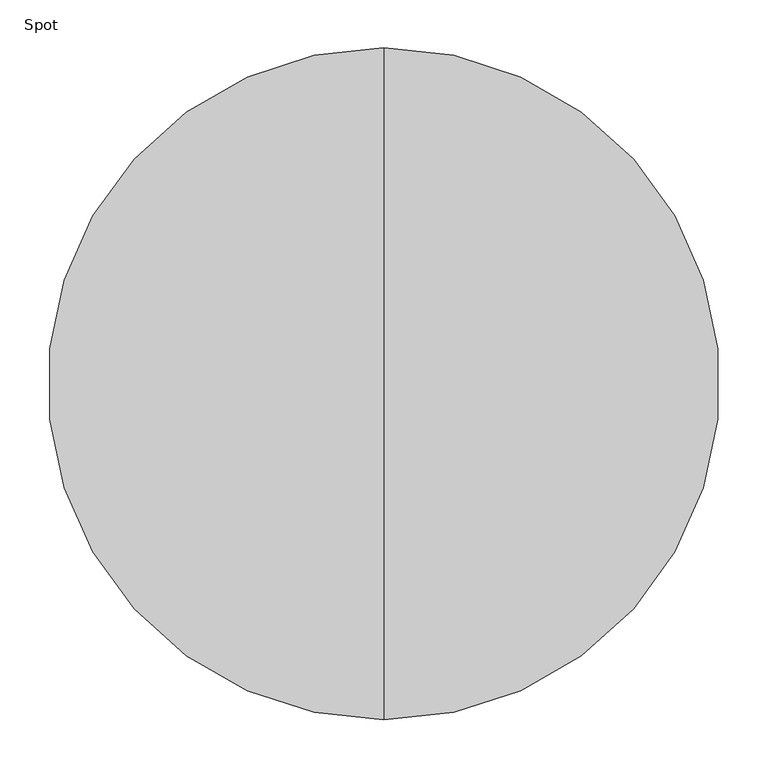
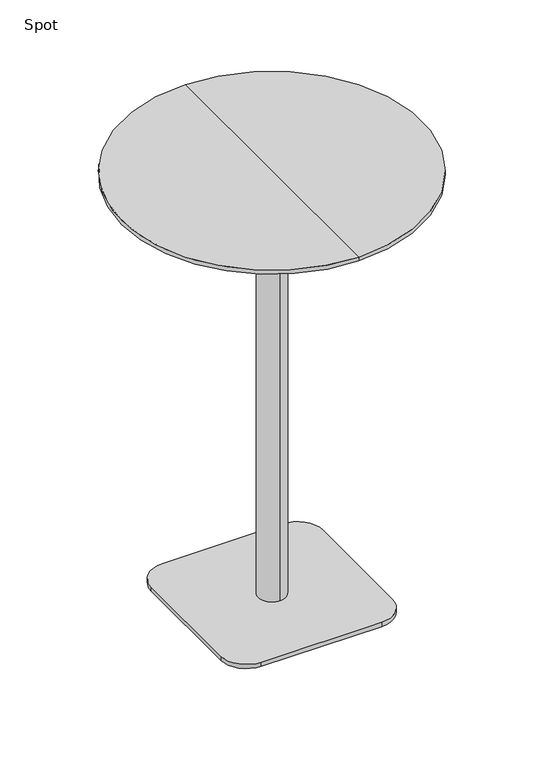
"""IFC4 building model written with IfcOpenShell, lengths in millimetres: furniture geometry, Spot : ø70x105s."""

import ifcopenshell
import ifcopenshell.guid

model = None  # the IFC model being written
_history = None  # IfcOwnerHistory: only IFC2X3 demands one
_inside = {}  # id of a spatial element -> (the spatial element, [elements in it])
_under = {}  # id of a project, library or spatial element -> (it, [spatial elements below it])
_declared = {}  # id of a project -> (the project, [libraries it declares])
_typed = {}  # id of a type object -> (the type object, [elements of that type])
_made_of = {}  # id of a material, layer set ... -> (it, [elements and type objects made of it])


def new_model(schema):
    """Start an empty IFC model of exactly this schema.

    Asked for "IFC4X3", IfcOpenShell would pick the latest addendum, in which some entities
    have other attributes; the version numbers below select the first issue.
    IFC2X3 requires an IfcOwnerHistory on every rooted entity: one is made here for all.
    """
    global model, _history
    if schema == "IFC4X3":
        model = ifcopenshell.file(schema_version=(4, 3, 0, 0))
    else:
        model = ifcopenshell.file(schema=schema)
    _inside.clear()
    _under.clear()
    _declared.clear()
    _typed.clear()
    _made_of.clear()
    _history = None
    if model.schema == "IFC2X3":
        org = make("IfcOrganization", Name="unknown")
        user = make(
            "IfcPersonAndOrganization",
            ThePerson=make("IfcPerson", FamilyName="unknown"),
            TheOrganization=org,
        )
        app = make(
            "IfcApplication",
            ApplicationDeveloper=org,
            Version="unknown",
            ApplicationFullName="unknown",
            ApplicationIdentifier="unknown",
        )
        _history = make(
            "IfcOwnerHistory",
            OwningUser=user,
            OwningApplication=app,
            ChangeAction="ADDED",
            CreationDate=0,
        )
    return model


def make(cls, **values):
    """One entity of the class cls with the attributes given. An attribute that is None is left unset."""
    return model.create_entity(
        cls, **{name: value for name, value in values.items() if value is not None}
    )


def rooted(cls, **values):
    """An entity with a GlobalId (a new one), such as an element, a storey or a relation."""
    return make(cls, GlobalId=ifcopenshell.guid.new(), OwnerHistory=_history, **values)


def si_unit(unit_type, name, prefix=None):
    """IfcSIUnit, for example si_unit("LENGTHUNIT", "METRE", prefix="MILLI")."""
    return make("IfcSIUnit", UnitType=unit_type, Prefix=prefix, Name=name)


def assignment(units):
    """IfcUnitAssignment: the units of a project."""
    return None if units is None else make("IfcUnitAssignment", Units=units)


def point(xyz):
    """IfcCartesianPoint."""
    return None if xyz is None else make("IfcCartesianPoint", Coordinates=xyz)


def direction(xyz):
    """IfcDirection."""
    return None if xyz is None else make("IfcDirection", DirectionRatios=xyz)


def frame(location, z_axis=None, x_axis=None):
    """IfcAxis2Placement3D, a coordinate frame: its origin and axes. An axis left out is left unset."""
    return make(
        "IfcAxis2Placement3D",
        Location=point(location),
        Axis=direction(z_axis),
        RefDirection=direction(x_axis),
    )


def frame_2d(location, x_axis=None):
    """IfcAxis2Placement2D, a coordinate frame in the plane: its origin and x axis."""
    return make(
        "IfcAxis2Placement2D", Location=point(location), RefDirection=direction(x_axis)
    )


def origin():
    """The frame at (0, 0, 0) with its axes left unset."""
    return frame((0.0, 0.0, 0.0))


def origin_with_axes():
    """The frame at (0, 0, 0) with the z axis (0, 0, 1) and the x axis (1, 0, 0) written out."""
    return frame((0.0, 0.0, 0.0), z_axis=(0.0, 0.0, 1.0), x_axis=(1.0, 0.0, 0.0))


def place(relative_to, where):
    """IfcLocalPlacement: puts the frame where relative to a parent placement (None: the world)."""
    return make(
        "IfcLocalPlacement", PlacementRelTo=relative_to, RelativePlacement=where
    )


def context(
    kind, dimensions, precision=None, world=None, true_north=None, identifier=None
):
    """IfcGeometricRepresentationContext, for example the 3D "Model" context."""
    return make(
        "IfcGeometricRepresentationContext",
        ContextIdentifier=identifier,
        ContextType=kind,
        CoordinateSpaceDimension=dimensions,
        Precision=precision,
        WorldCoordinateSystem=world,
        TrueNorth=true_north,
    )


def project(units=None, contexts=None):
    """IfcProject with its units and contexts."""
    return rooted(
        "IfcProject",
        Name="project",
        RepresentationContexts=contexts,
        UnitsInContext=assignment(units),
    )


def spatial(cls, under=None, at=None, **own):
    """A site, building, storey or space (cls), placed at a placement, below another one or the project."""
    s = rooted(cls, ObjectPlacement=at, **own)
    if under is not None:
        _under.setdefault(under.id(), (under, []))[1].append(s)
    return s


def polyline(points):
    """IfcPolyline through the points."""
    return make("IfcPolyline", Points=[point(p) for p in points])


def circle_curve(where, radius):
    """IfcCircle in the frame where."""
    return make("IfcCircle", Position=where, Radius=radius)


def trimmed(basis, trim1, trim2, sense, master):
    """IfcTrimmedCurve: the piece of a basis curve between two trims."""
    return make(
        "IfcTrimmedCurve",
        BasisCurve=basis,
        Trim1=trim1,
        Trim2=trim2,
        SenseAgreement=sense,
        MasterRepresentation=master,
    )


def segment(curve, same_sense, transition):
    """IfcCompositeCurveSegment."""
    return make(
        "IfcCompositeCurveSegment",
        Transition=transition,
        SameSense=same_sense,
        ParentCurve=curve,
    )


def composite_curve(segments, self_intersect=None):
    """IfcCompositeCurve: segments joined end to end."""
    return make("IfcCompositeCurve", Segments=segments, SelfIntersect=self_intersect)


def outline(outer, holes=None, kind="AREA"):
    """IfcArbitraryClosedProfileDef: a profile drawn as a closed curve; with holes, ...WithVoids."""
    if holes is None:
        return make("IfcArbitraryClosedProfileDef", ProfileType=kind, OuterCurve=outer)
    return make(
        "IfcArbitraryProfileDefWithVoids",
        ProfileType=kind,
        OuterCurve=outer,
        InnerCurves=holes,
    )


def extrude(swept, where, along, depth):
    """IfcExtrudedAreaSolid: the profile swept, set in the frame where, extruded along a direction by depth."""
    return make(
        "IfcExtrudedAreaSolid",
        SweptArea=swept,
        Position=where,
        ExtrudedDirection=direction(along),
        Depth=depth,
    )


def shape(context_of_items, identifier, shape_type, items):
    """IfcShapeRepresentation: the items that make up one representation, for example the "Body"."""
    return make(
        "IfcShapeRepresentation",
        ContextOfItems=context_of_items,
        RepresentationIdentifier=identifier,
        RepresentationType=shape_type,
        Items=items,
    )


def source(mapping_origin, context_of_items, identifier, shape_type, items):
    """IfcRepresentationMap: a shape defined once, which mapped items show again and again."""
    return make(
        "IfcRepresentationMap",
        MappingOrigin=mapping_origin,
        MappedRepresentation=shape(context_of_items, identifier, shape_type, items),
    )


def transform(
    local_origin,
    x_axis=None,
    y_axis=None,
    z_axis=None,
    scale=None,
    scale2=None,
    scale3=None,
    uniform=True,
):
    """IfcCartesianTransformationOperator3D, or its non-uniform kind. x_axis, y_axis, z_axis: its Axis1, 2, 3."""
    if uniform:
        return make(
            "IfcCartesianTransformationOperator3D",
            Axis1=direction(x_axis),
            Axis2=direction(y_axis),
            LocalOrigin=point(local_origin),
            Scale=scale,
            Axis3=direction(z_axis),
        )
    return make(
        "IfcCartesianTransformationOperator3DnonUniform",
        Axis1=direction(x_axis),
        Axis2=direction(y_axis),
        LocalOrigin=point(local_origin),
        Scale=scale,
        Axis3=direction(z_axis),
        Scale2=scale2,
        Scale3=scale3,
    )


def mapped(mapping_source, mapping_target):
    """IfcMappedItem: shows the shape of a source again, moved by a transform."""
    return make(
        "IfcMappedItem", MappingSource=mapping_source, MappingTarget=mapping_target
    )


def made_of(thing, what):
    """Note that an element or type object is made of a material, layer set ...; save() writes the relation."""
    if what is not None:
        _made_of.setdefault(what.id(), (what, []))[1].append(thing)
    return thing


def element(
    cls,
    number,
    at=None,
    inside=None,
    cuts=None,
    type_object=None,
    material=None,
    context=None,
    identifier="Body",
    shape_type=None,
    held_by="IfcProductDefinitionShape",
    body=None,
    shapes=None,
    **own,
):
    """One element of the class cls, such as IfcWall. Its Tag is "e" and its number.

    at: its placement. inside: the storey or other place that contains it. cuts: it is an
    opening in that element (IfcRelVoidsElement). A single representation is given by context,
    identifier, shape_type and body (its items); several are given by shapes. held_by: the class
    of the entity that holds the representations. save() writes the other relations.
    """
    e = rooted(cls, Tag="e%d" % number, ObjectPlacement=at, **own)
    if body is not None:
        shapes = [shape(context, identifier, shape_type, body)]
    if shapes is not None:
        e.Representation = make(held_by, Representations=shapes)
    if inside is not None:
        _inside.setdefault(inside.id(), (inside, []))[1].append(e)
    if cuts is not None:
        rooted(
            "IfcRelVoidsElement", RelatingBuildingElement=cuts, RelatedOpeningElement=e
        )
    if type_object is not None:
        _typed.setdefault(type_object.id(), (type_object, []))[1].append(e)
    return made_of(e, material)


def aggregate(whole, parts):
    """IfcRelAggregates: a whole, such as a stair, and the parts it consists of."""
    return rooted("IfcRelAggregates", RelatingObject=whole, RelatedObjects=parts)


def save(model, path):
    """Write the relations noted so far, then the file.

    IfcRelAggregates (storeys below a building ...), IfcRelContainedInSpatialStructure (elements
    in a storey), IfcRelDefinesByType, IfcRelAssociatesMaterial and IfcRelDeclares: one each for
    every whole, place, type object, material and project.
    """
    for whole, parts in _under.values():
        aggregate(whole, parts)
    for where, things in _inside.values():
        rooted(
            "IfcRelContainedInSpatialStructure",
            RelatedElements=things,
            RelatingStructure=where,
        )
    for kind, things in _typed.values():
        rooted("IfcRelDefinesByType", RelatedObjects=things, RelatingType=kind)
    for what, things in _made_of.values():
        rooted("IfcRelAssociatesMaterial", RelatedObjects=things, RelatingMaterial=what)
    for by, libraries in _declared.values():
        rooted("IfcRelDeclares", RelatingContext=by, RelatedDefinitions=libraries)
    model.write(path)


def plane_surface(at):
    """IfcPlane: the flat surface through the origin of the frame at, square to its z axis."""
    return make("IfcPlane", Position=at)


def cylinder_surface(at, radius):
    """IfcCylindricalSurface: all points at the distance radius from the z axis of the frame at."""
    return make("IfcCylindricalSurface", Position=at, Radius=radius)


def revolved_surface(curve, axis_point, axis_direction):
    """IfcSurfaceOfRevolution: the curve turned about the line through axis_point along axis_direction."""
    return make(
        "IfcSurfaceOfRevolution",
        SweptCurve=make("IfcArbitraryOpenProfileDef", ProfileType="CURVE", Curve=curve),
        AxisPosition=make("IfcAxis1Placement", Location=point(axis_point), Axis=direction(axis_direction)),
    )


def advanced_brep(points, edges, surfaces, faces):
    """IfcAdvancedBrep: a solid bounded by faces that lie on surfaces and meet in shared edges.

    An edge is (start, end): straight between two places in points (the first is 0);
    or (start, end, curve); or (start, end, curve, False) where it runs against its curve.
    A face is (place in surfaces, loops), or (place, loops, False) where it looks against
    its surface's normal. A loop lists edges by number (the first is 1), with a minus sign
    where the edge is run from its end to its start. The first loop is the outer one.
    """
    corners = [point(p) for p in points]
    vertices = [make("IfcVertexPoint", VertexGeometry=c) for c in corners]
    made = []
    for start, end, *more in edges:
        made.append(
            make(
                "IfcEdgeCurve",
                EdgeStart=vertices[start],
                EdgeEnd=vertices[end],
                EdgeGeometry=more[0] if more else make("IfcPolyline", Points=[corners[start], corners[end]]),
                SameSense=more[1] if len(more) > 1 else True,
            )
        )
    hull = []
    for where, loops, *sense in faces:
        bounds = []
        for j, loop in enumerate(loops):
            ring = [make("IfcOrientedEdge", EdgeElement=made[abs(k) - 1], Orientation=k > 0) for k in loop]
            bounds.append(
                make(
                    "IfcFaceOuterBound" if j == 0 else "IfcFaceBound",
                    Bound=make("IfcEdgeLoop", EdgeList=ring),
                    Orientation=True,
                )
            )
        hull.append(make("IfcAdvancedFace", Bounds=bounds, FaceSurface=surfaces[where], SameSense=sense[0] if sense else True))
    return make("IfcAdvancedBrep", Outer=make("IfcClosedShell", CfsFaces=hull))


def spot_16825962(model_context):
    return source(origin(), model_context, "Body", "SolidModel", [
        advanced_brep(
        [(0.0, 350.0, 1050.0), (0.0, -350.0, 1050.0), (0.0, 0.0, 1050.0), (0.0, 350.0, 1040.25), (0.0, -350.0, 1040.25), (0.0, 304.2823776, 1028.0), (0.0, -304.2823776, 1028.0), (0.0, 0.0, 1028.0)],
        [
            (0, 1, circle_curve(frame((0.0, 0.0, 1050.0), z_axis=(0.0, 0.0, 1.0), x_axis=(0.0, -1.0, 0.0)), 350.0)),
            (1, 2),
            (2, 0),
            (1, 0, circle_curve(frame((0.0, 0.0, 1050.0), z_axis=(0.0, 0.0, 1.0), x_axis=(0.0, -1.0, 0.0)), 350.0)),
            (3, 4, circle_curve(frame((0.0, 0.0, 1040.25), z_axis=(0.0, 0.0, 1.0), x_axis=(0.0, -1.0, 0.0)), 350.0)),
            (4, 1),
            (0, 3),
            (4, 3, circle_curve(frame((0.0, 0.0, 1040.25), z_axis=(0.0, 0.0, 1.0), x_axis=(0.0, -1.0, 0.0)), 350.0)),
            (5, 6, circle_curve(frame((0.0, 0.0, 1028.0), z_axis=(0.0, 0.0, 1.0), x_axis=(0.0, -1.0, 0.0)), 304.2823776)),
            (6, 4),
            (3, 5),
            (6, 5, circle_curve(frame((0.0, 0.0, 1028.0), z_axis=(0.0, 0.0, 1.0), x_axis=(0.0, -1.0, 0.0)), 304.2823776)),
            (7, 6),
            (5, 7),
        ],
        [
            plane_surface(frame((0.0, 0.0, 1050.0), z_axis=(0.0, 0.0, 1.0), x_axis=(0.0, -1.0, 0.0))),
            cylinder_surface(frame((0.0, 0.0, 1130.0), z_axis=(0.0, 0.0, -1.0), x_axis=(0.0, -1.0, 0.0)), 350.0),
            revolved_surface(polyline([(0.0, -350.0, 1040.25), (0.0, -304.2823776, 1028.0)]), (0.0, 0.0, 1130.0), (0.0, 0.0, -1.0)),
            plane_surface(frame((0.0, 0.0, 1028.0), z_axis=(0.0, 0.0, -1.0), x_axis=(0.0, -1.0, 0.0))),
        ],
        [
            (0, [[1, 2, 3]]),
            (0, [[4, -3, -2]]),
            (1, [[5, 6, -1, 7]]),
            (1, [[8, -7, -4, -6]]),
            (2, [[9, 10, -5, 11]]),
            (2, [[12, -11, -8, -10]]),
            (3, [[13, -9, 14]]),
            (3, [[-14, -12, -13]]),
        ],
    ),
        extrude(outline(composite_curve([segment(trimmed(circle_curve(frame_2d((140.0, 140.0)), 60.0), [point((140.0, 200.0))], [point((200.0, 140.0))], False, "CARTESIAN"), True, "CONTINUOUS"), segment(polyline([(200.0, 140.0), (200.0, -140.0)]), True, "CONTINUOUS"), segment(trimmed(circle_curve(frame_2d((140.0, -140.0)), 60.0), [point((200.0, -140.0))], [point((140.0, -200.0))], False, "CARTESIAN"), True, "CONTINUOUS"), segment(polyline([(140.0, -200.0), (-140.0, -200.0)]), True, "CONTINUOUS"), segment(trimmed(circle_curve(frame_2d((-140.0, -140.0)), 60.0), [point((-140.0, -200.0))], [point((-200.0, -140.0))], False, "CARTESIAN"), True, "CONTINUOUS"), segment(polyline([(-200.0, -140.0), (-200.0, 140.0)]), True, "CONTINUOUS"), segment(trimmed(circle_curve(frame_2d((-140.0, 140.0)), 60.0), [point((-200.0, 140.0))], [point((-140.0, 200.0))], False, "CARTESIAN"), True, "CONTINUOUS"), segment(polyline([(-140.0, 200.0), (140.0, 200.0)]), True, "CONTINUOUS")], self_intersect=False)), origin_with_axes(), (0.0, 0.0, 1.0), 10.0),
        advanced_brep(
        [(0.0, 32.0, 10.0), (0.0, -32.0, 10.0), (0.0, -32.0, 997.406916), (0.0, 32.0, 997.406916), (0.0, 0.0, 10.0), (0.0, 150.0, 1028.0), (0.0, -150.0, 1028.0), (0.0, 0.0, 1028.0), (0.0, 150.0, 1016.7213673), (0.0, -150.0, 1016.7213673)],
        [
            (0, 1, circle_curve(frame((0.0, 0.0, 10.0), z_axis=(0.0, 0.0, 1.0), x_axis=(0.0, -1.0, 0.0)), 32.0)),
            (1, 2),
            (2, 3, circle_curve(frame((0.0, 0.0, 997.406916), z_axis=(0.0, 0.0, -1.0), x_axis=(0.0, -1.0, 0.0)), 32.0)),
            (3, 0),
            (1, 0, circle_curve(frame((0.0, 0.0, 10.0), z_axis=(0.0, 0.0, 1.0), x_axis=(0.0, -1.0, 0.0)), 32.0)),
            (3, 2, circle_curve(frame((0.0, 0.0, 997.406916), z_axis=(0.0, 0.0, -1.0), x_axis=(0.0, -1.0, 0.0)), 32.0)),
            (4, 1),
            (0, 4),
            (5, 6, circle_curve(frame((0.0, 0.0, 1028.0), z_axis=(0.0, 0.0, 1.0), x_axis=(0.0, -1.0, 0.0)), 150.0)),
            (6, 7),
            (7, 5),
            (6, 5, circle_curve(frame((0.0, 0.0, 1028.0), z_axis=(0.0, 0.0, 1.0), x_axis=(0.0, -1.0, 0.0)), 150.0)),
            (8, 9, circle_curve(frame((0.0, 0.0, 1016.7213673), z_axis=(0.0, 0.0, 1.0), x_axis=(0.0, -1.0, 0.0)), 150.0)),
            (9, 6),
            (5, 8),
            (9, 8, circle_curve(frame((0.0, 0.0, 1016.7213673), z_axis=(0.0, 0.0, 1.0), x_axis=(0.0, -1.0, 0.0)), 150.0)),
            (2, 9),
            (8, 3),
        ],
        [
            cylinder_surface(frame((0.0, 0.0, 1390.0), z_axis=(0.0, 0.0, -1.0), x_axis=(0.0, -1.0, 0.0)), 32.0),
            plane_surface(frame((0.0, 0.0, 10.0), z_axis=(0.0, 0.0, -1.0), x_axis=(0.0, -1.0, 0.0))),
            plane_surface(frame((0.0, 0.0, 1028.0), z_axis=(0.0, 0.0, 1.0), x_axis=(0.0, -1.0, 0.0))),
            cylinder_surface(frame((0.0, 0.0, 1390.0), z_axis=(0.0, 0.0, -1.0), x_axis=(0.0, -1.0, 0.0)), 150.0),
            revolved_surface(polyline([(0.0, -150.0, 1016.7213673), (0.0, -32.0, 997.406916)]), (0.0, 0.0, 1390.0), (0.0, 0.0, -1.0)),
        ],
        [
            (0, [[1, 2, 3, 4]]),
            (0, [[5, -4, 6, -2]]),
            (1, [[7, -1, 8]]),
            (1, [[-8, -5, -7]]),
            (2, [[9, 10, 11]]),
            (2, [[12, -11, -10]]),
            (3, [[13, 14, -9, 15]]),
            (3, [[16, -15, -12, -14]]),
            (4, [[-3, 17, -13, 18]]),
            (4, [[-6, -18, -16, -17]]),
        ],
    ),
        extrude(outline(polyline([(0.0, 0.0), (-20.0, 0.0), (-20.0, 20.0), (0.0, 20.0), (0.0, 0.0)])), origin_with_axes(), (0.0, 0.0, 1.0), 10.0),
    ])


if __name__ == "__main__":
    model = new_model("IFC4")
    model_context = context("Model", 3, world=origin())
    ifc_project = project(units=[si_unit("LENGTHUNIT", "METRE", prefix="MILLI")], contexts=[model_context])
    site = spatial("IfcSite", under=ifc_project)
    building = spatial("IfcBuilding", under=site)
    placement = place(None, origin())
    spot_shape = spot_16825962(model_context)
    element("IfcFurniture", 1, ObjectType="Spot : ø70x105s", at=placement, inside=building, context=model_context, shape_type="MappedRepresentation", body=[
        mapped(spot_shape, transform((0.0, 0.0, 0.0), x_axis=(1.0, 0.0, 0.0), y_axis=(0.0, 1.0, 0.0), z_axis=(0.0, 0.0, 1.0))),
    ])
    save(model, "model.ifc")
